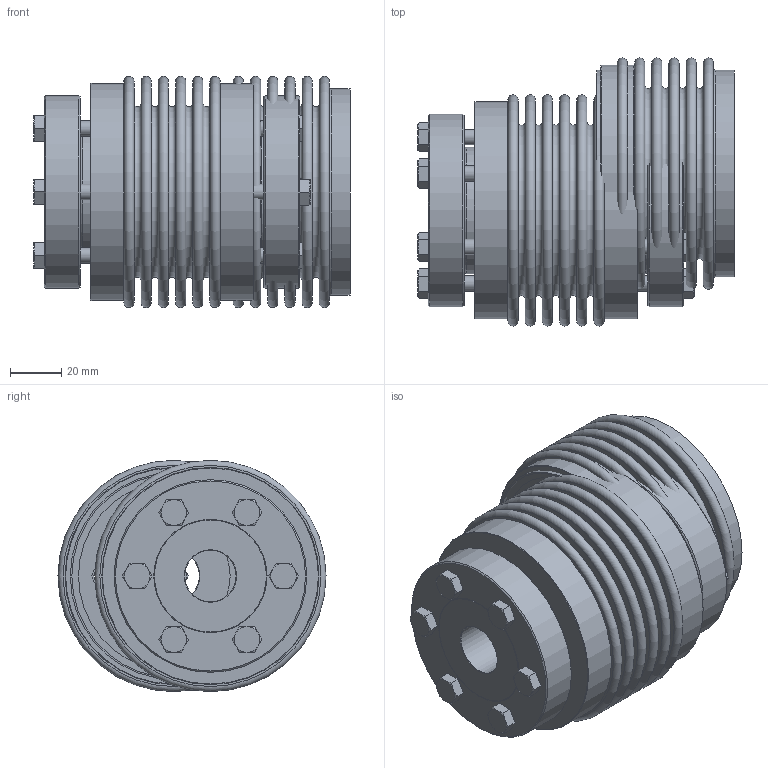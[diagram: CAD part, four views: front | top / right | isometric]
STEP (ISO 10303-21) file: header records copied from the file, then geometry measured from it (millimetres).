
FILE_DESCRIPTION( ( 'Unknown' ), '1' );
FILE_NAME( 'C:/Dokumente und Einstellungen/Sven/Desktop/homepage/cad - homepage/KB6/KB6-200-108.stp', 'Unknown', ( 'Unknown' ), ( 'Unknown' ), 'XStep 1.0', 'Unknown', ' ' );
FILE_SCHEMA( ( 'automotive_design' ) );
Length unit declared in the file: millimetre
Products named in the file (5): Assem1; BL200_Standard; Hex Screw GradeC_DIN_ISO 4018 - M6 x 30-NN_1; BA200_Standard; DR200_Standard
Bounding box: 123.01 x 104.31 x 89.99 mm (x, y, z)
Volume: 449028.8 mm3; surface area: 268330.9 mm2
Topology: 21 solids, 21 shells, 421 faces, 851 edges, 536 vertices
Faces by surface type: plane 184, cone 118, cylinder 69, torus 50
Full cylindrical faces by diameter (mm): 5 x18, 6 x13, 6.6 x18, 20 x3, 49.29 x3, 75 x3, 79.2 x4, 80.4 x4, 84.5 x3
Entity records: 2624 total; most frequent: DIRECTION 464, CARTESIAN_POINT 404, ORIENTED_EDGE 260, AXIS2_PLACEMENT_3D 226, EDGE_LOOP 214, FACE_OUTER_BOUND 148, EDGE_CURVE 130, VERTEX_POINT 118
